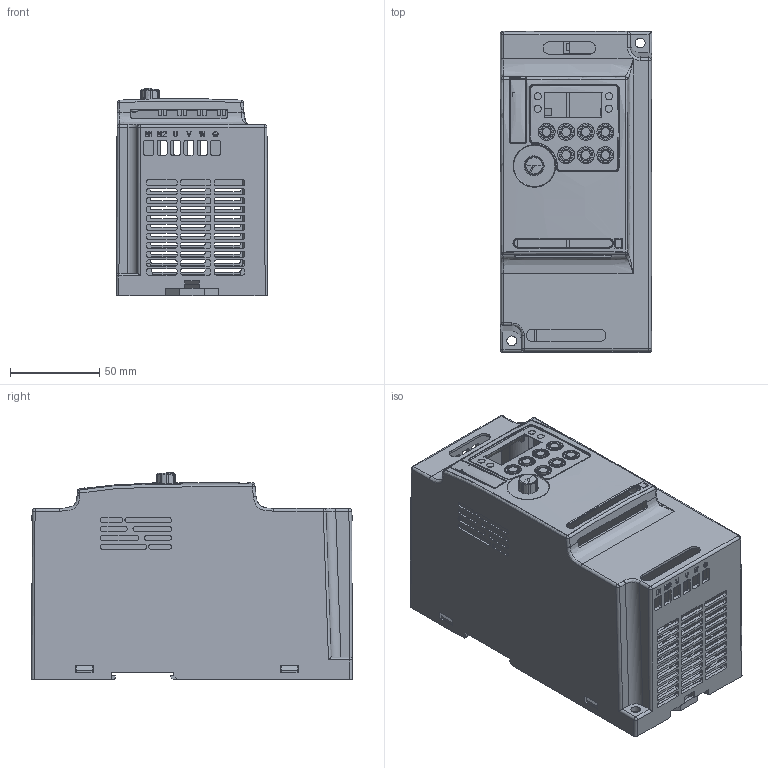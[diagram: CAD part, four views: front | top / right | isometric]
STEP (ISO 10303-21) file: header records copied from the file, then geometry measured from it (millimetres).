
FILE_DESCRIPTION((''),'2;1');
FILE_NAME('S25_ASM_ASM','2019-02-25T',('PC-TR'),(''),'PRO/ENGINEER BY PARAMETRIC TECHNOLOGY CORPORATION, 2010280','PRO/ENGINEER BY PARAMETRIC TECHNOLOGY CORPORATION, 2010280','');
FILE_SCHEMA(('CONFIG_CONTROL_DESIGN'));
Products named in the file (1): S25_ASM_ASM
Bounding box: 85.08 x 180.08 x 116.2 mm (x, y, z)
Surface area: 214767.6 mm2 (no closed solid volume)
Topology: 0 solids, 37 shells, 2579 faces, 7312 edges, 4819 vertices
Faces by surface type: plane 1713, cylinder 632, bspline 139, torus 39, cone 31, sphere 19, extrusion 6
Entity records: 96903 total; most frequent: CARTESIAN_POINT 32402, ORIENTED_EDGE 14469, DIRECTION 11413, EDGE_CURVE 7295, VECTOR 5153, LINE 5147, VERTEX_POINT 4819, AXIS2_PLACEMENT_3D 3130
